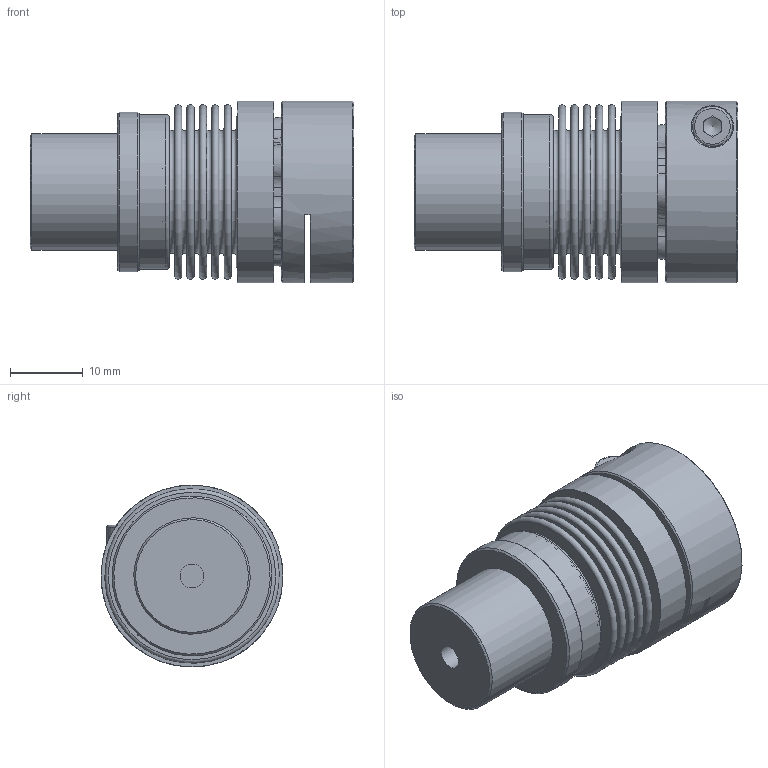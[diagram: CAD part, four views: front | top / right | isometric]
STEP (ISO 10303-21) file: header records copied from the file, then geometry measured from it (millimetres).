
FILE_DESCRIPTION( ( 'KBE1/14 - N7H8 - N14H7 - 98 Sh' ), '1' );
FILE_NAME( 'K:/Konstruktion/Fertigungszeichnungen/Metallbalgkupplung/KB3P/20/KB3P-20-33.stp', '14.12.2015', ( 'KBK-Antriebstechnik' ), ( 'KBK-Antriebstechnik' ), 'PSStep 16.0.42', 'Solid Edge St6', ' ' );
FILE_SCHEMA( ( 'AUTOMOTIVE_DESIGN { 1 0 10303 214 1 1 1 1 }' ) );
Length unit declared in the file: millimetre
Products named in the file (7): Assem1; Stecknabe KB2P-20; Balgaufnahme KB2P-20 für Step; Socket Head Cap Screw_DIN_DIN 912 M3 x 10 --- 10N_0; SN20; ISO EN DIN 4762 M4x16; BK20_Standard_1
Assembly tree (6 placements, depth 2):
  Assem1
    Stecknabe KB2P-20
    Balgaufnahme KB2P-20 für Step
    Socket Head Cap Screw_DIN_DIN 912 M3 x 10 --- 10N_0
    SN20
    ISO EN DIN 4762 M4x16
    BK20_Standard_1
Bounding box: 44.5 x 25 x 25 mm (x, y, z)
Volume: 12804.3 mm3; surface area: 13549.6 mm2
Topology: 6 solids, 6 shells, 190 faces, 409 edges, 263 vertices
Faces by surface type: plane 71, cone 66, torus 31, cylinder 22
Full cylindrical faces by diameter (mm): 2.459 x1, 3 x2, 3.2 x1, 3.3 x1, 3.5 x1, 4 x2, 5.5 x1, 7 x1, 16 x1, 21 x3, 21.3 x2, 22 x1, 25 x2
Entity records: 6684 total; most frequent: CARTESIAN_POINT 964, DIRECTION 942, ORIENTED_EDGE 680, AXIS2_PLACEMENT_3D 418, EDGE_CURVE 340, EDGE_LOOP 295, VERTEX_POINT 264, FACE_OUTER_BOUND 240
